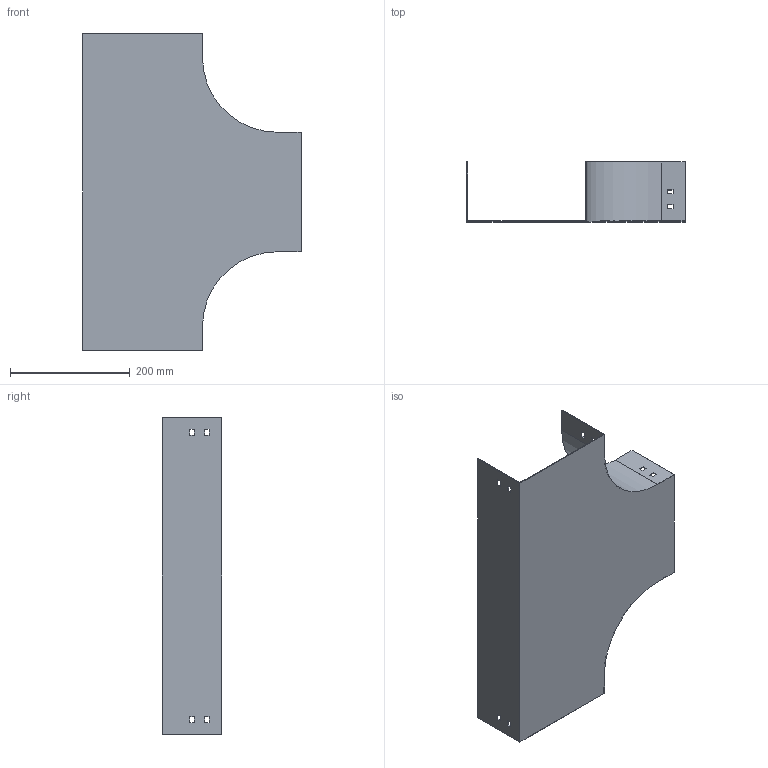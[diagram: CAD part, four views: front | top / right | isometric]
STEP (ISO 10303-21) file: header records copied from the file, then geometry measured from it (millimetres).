
FILE_DESCRIPTION (( 'STEP AP214' ), '1' );
FILE_NAME ('PT_201.step', '2025-07-16T09:23:35', ( '' ), ( '' ), 'SwSTEP 2.0', 'SolidWorks 2023', '' );
FILE_SCHEMA (( 'AUTOMOTIVE_DESIGN' ));
Length unit declared in the file: millimetre
Products named in the file (1): PT_201
Bounding box: 365 x 100 x 530 mm (x, y, z)
Volume: 377616.4 mm3; surface area: 507511.1 mm2
Topology: 1 solids, 1 shells, 70 faces, 204 edges, 136 vertices
Faces by surface type: plane 66, cylinder 4
Entity records: 2347 total; most frequent: CARTESIAN_POINT 411, ORIENTED_EDGE 408, DIRECTION 354, EDGE_CURVE 204, VECTOR 196, LINE 196, VERTEX_POINT 136, EDGE_LOOP 94
